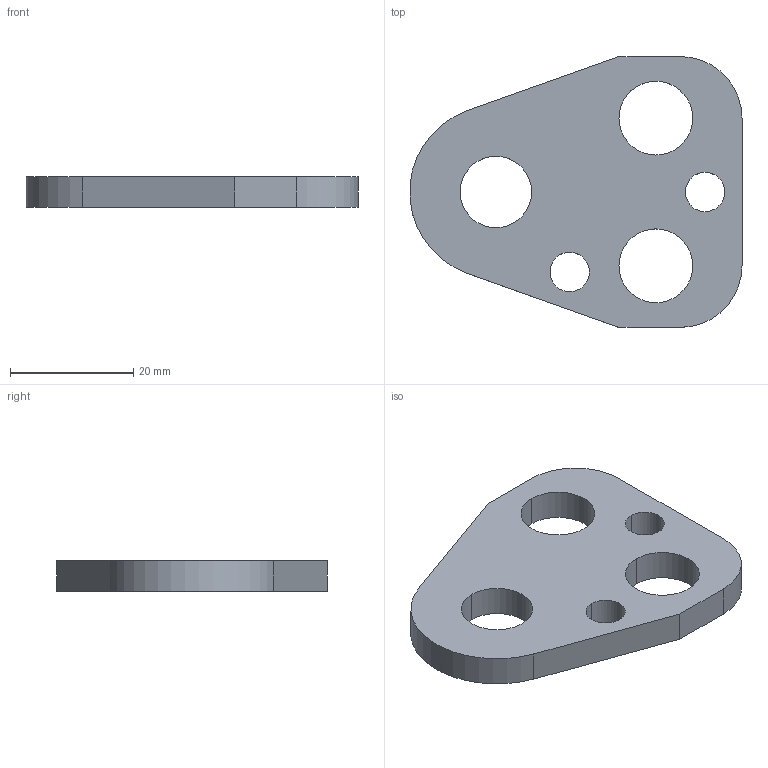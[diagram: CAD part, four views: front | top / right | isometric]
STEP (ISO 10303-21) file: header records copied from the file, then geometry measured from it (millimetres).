
FILE_DESCRIPTION(/* description */ (''),/* implementation_level */ '2;1');
FILE_NAME(/* name */ '3d_bdc16_03364_r00.stp',/* time_stamp */ '2011-01-10T14:17:24+09:00',/* author */ ('MISUMI'),/* organization */ (''),/* preprocessor_version */ 'ST-DEVELOPER v11',/* originating_system */ 'UGS - NX 5.0',/* authorisation */ '');
FILE_SCHEMA (('CONFIG_CONTROL_DESIGN'));
Length unit declared in the file: millimetre
Products named in the file (1): 3d_bdc16_03364_r00
Bounding box: 53.95 x 44 x 5 mm (x, y, z)
Volume: 7443.9 mm3; surface area: 4549.1 mm2
Topology: 1 solids, 1 shells, 20 faces, 54 edges, 36 vertices
Faces by surface type: cylinder 13, plane 7
Entity records: 750 total; most frequent: DIRECTION 122, CARTESIAN_POINT 111, ORIENTED_EDGE 108, EDGE_CURVE 54, AXIS2_PLACEMENT_3D 47, VERTEX_POINT 36, EDGE_LOOP 30, LINE 28
